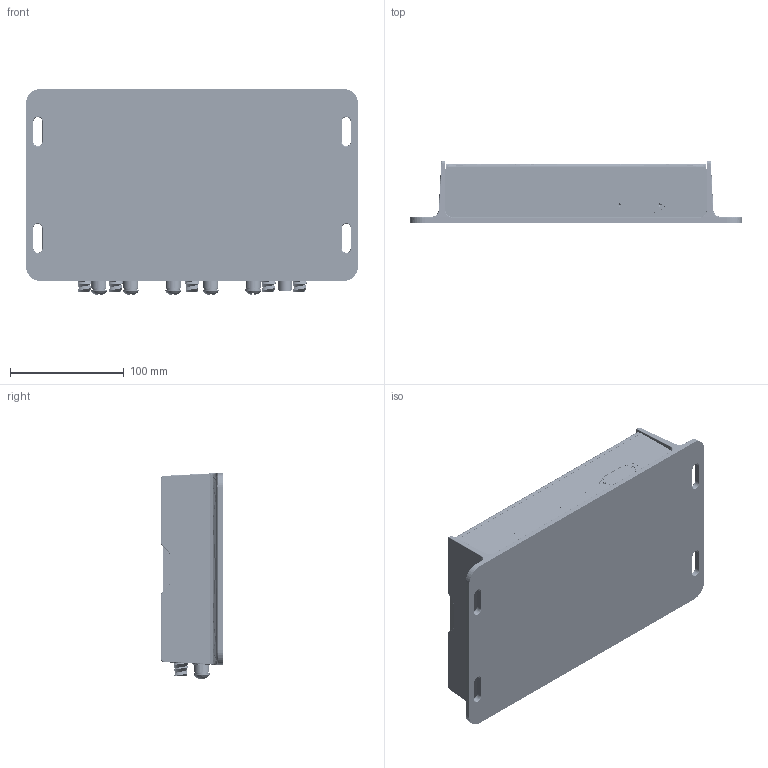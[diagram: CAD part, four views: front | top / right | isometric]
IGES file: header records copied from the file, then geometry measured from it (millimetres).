
Start section:  PTC IGES file: 90001350_REV_B.igs
Global section: file name: 90001350_REV_B.igs; native system: Creo Parametric by PTC Inc.; preprocessor: 2016130; author: ahartzle; organization: Unknown; date: 20180626.120319; units: inch
Bounding box: 292.45 x 54.61 x 181.68 mm (x, y, z)
Volume: 695911.9 mm3; surface area: 315773.7 mm2
Topology: 8 solids, 22 shells, 4451 faces, 15029 edges, 13220 vertices
Faces by surface type: revolution 2418, bspline 1937, extrusion 96
